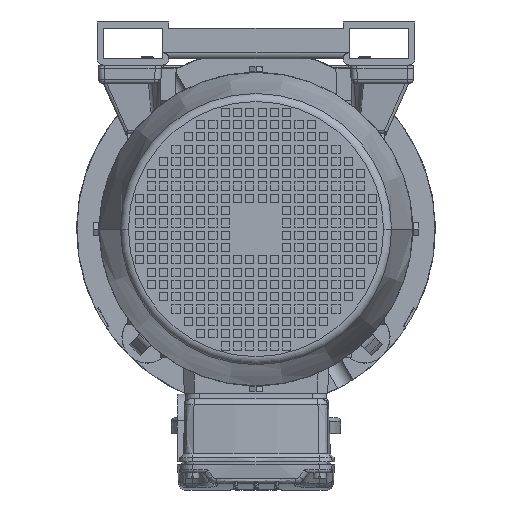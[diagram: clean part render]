
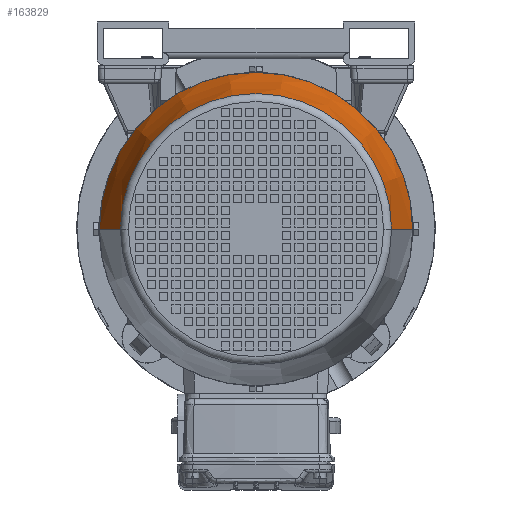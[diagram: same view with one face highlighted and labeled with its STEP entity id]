
A CAD part, front view. The second image highlights one B-rep face of the part: STEP entity #163829.
In plain terms, the highlighted conical face has half-angle 11 degrees and reference radius 132.258 mm.
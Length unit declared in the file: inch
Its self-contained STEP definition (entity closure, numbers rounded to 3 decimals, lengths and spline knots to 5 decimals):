
#7073 = AXIS2_PLACEMENT_3D ( 'NONE', #169471, #77896, #150378 ) ;
#9418 = DIRECTION ( 'NONE',  ( 0., 0., 1. ) ) ;
#12378 = FACE_OUTER_BOUND ( 'NONE', #187045, .T. ) ;
#15800 = LINE ( 'NONE', #77273, #194080 ) ;
#21561 = EDGE_CURVE ( 'NONE', #67796, #123281, #37461, .T. ) ;
#37461 = CIRCLE ( 'NONE', #104994, 6.01639 ) ;
#38369 = VECTOR ( 'NONE', #105883, 39.37008 ) ;
#42473 = LINE ( 'NONE', #165291, #38369 ) ;
#48558 = ORIENTED_EDGE ( 'NONE', *, *, #21561, .F. ) ;
#55678 = CARTESIAN_POINT ( 'NONE',  ( -6.01639, 0., -6.96516 ) ) ;
#55800 = DIRECTION ( 'NONE',  ( 1., 0., 0. ) ) ;
#56389 = CARTESIAN_POINT ( 'NONE',  ( -5.20702, 0., -11.12899 ) ) ;
#67796 = VERTEX_POINT ( 'NONE', #55678 ) ;
#77273 = CARTESIAN_POINT ( 'NONE',  ( -5.20702, 0., -11.12899 ) ) ;
#77896 = DIRECTION ( 'NONE',  ( 0., 0., 1. ) ) ;
#103943 = CONICAL_SURFACE ( 'NONE', #113591, 5.20702, 0.192 ) ;
#104994 = AXIS2_PLACEMENT_3D ( 'NONE', #135893, #136872, #137868 ) ;
#105883 = DIRECTION ( 'NONE',  ( 0.191, 0., 0.982 ) ) ;
#108458 = CARTESIAN_POINT ( 'NONE',  ( 5.20702, 0., -11.12899 ) ) ;
#113591 = AXIS2_PLACEMENT_3D ( 'NONE', #193741, #9418, #55800 ) ;
#123281 = VERTEX_POINT ( 'NONE', #161162 ) ;
#123582 = DIRECTION ( 'NONE',  ( -0.191, 0., 0.982 ) ) ;
#126794 = EDGE_CURVE ( 'NONE', #164521, #123281, #42473, .T. ) ;
#135618 = ORIENTED_EDGE ( 'NONE', *, *, #126794, .T. ) ;
#135893 = CARTESIAN_POINT ( 'NONE',  ( 0., 0., -6.96516 ) ) ;
#136872 = DIRECTION ( 'NONE',  ( 0., 0., 1. ) ) ;
#137868 = DIRECTION ( 'NONE',  ( 1., 0., 0. ) ) ;
#138113 = ORIENTED_EDGE ( 'NONE', *, *, #162563, .F. ) ;
#148060 = VERTEX_POINT ( 'NONE', #56389 ) ;
#150378 = DIRECTION ( 'NONE',  ( 1., 0., 0. ) ) ;
#160171 = EDGE_CURVE ( 'NONE', #148060, #164521, #180706, .T. ) ;
#161162 = CARTESIAN_POINT ( 'NONE',  ( 6.01639, 0., -6.96516 ) ) ;
#162563 = EDGE_CURVE ( 'NONE', #148060, #67796, #15800, .T. ) ;
#163829 = ADVANCED_FACE ( 'NONE', ( #12378 ), #103943, .T. ) ;
#164521 = VERTEX_POINT ( 'NONE', #108458 ) ;
#165291 = CARTESIAN_POINT ( 'NONE',  ( 5.20702, 0., -11.12899 ) ) ;
#169282 = ORIENTED_EDGE ( 'NONE', *, *, #160171, .T. ) ;
#169471 = CARTESIAN_POINT ( 'NONE',  ( 0., 0., -11.12899 ) ) ;
#180706 = CIRCLE ( 'NONE', #7073, 5.20702 ) ;
#187045 = EDGE_LOOP ( 'NONE', ( #138113, #169282, #135618, #48558 ) ) ;
#193741 = CARTESIAN_POINT ( 'NONE',  ( 0., 0., -11.12899 ) ) ;
#194080 = VECTOR ( 'NONE', #123582, 39.37008 ) ;
